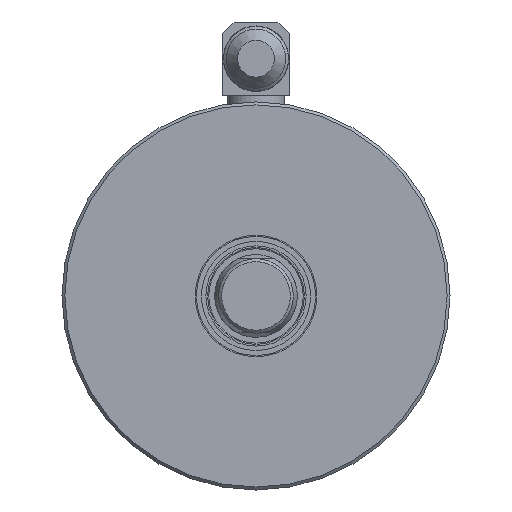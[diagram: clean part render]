
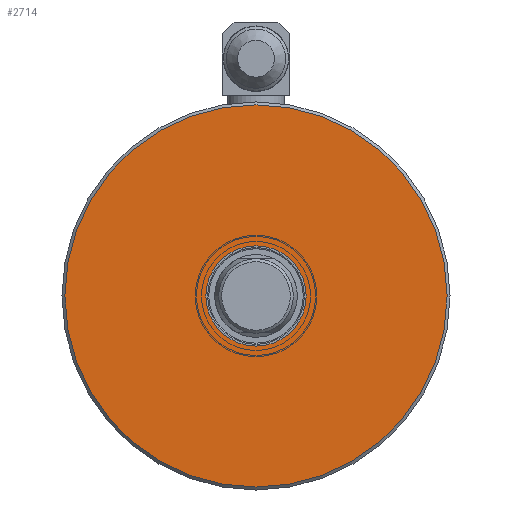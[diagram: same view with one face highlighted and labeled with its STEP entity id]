
A CAD part, left-side view. The second image highlights one B-rep face of the part: STEP entity #2714.
In plain terms, the highlighted planar face has unit normal (-1, 0, 0).
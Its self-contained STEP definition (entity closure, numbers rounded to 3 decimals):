
#125=FACE_BOUND('',#501,.T.);
#182=PLANE('',#2996);
#308=FACE_OUTER_BOUND('',#500,.T.);
#500=EDGE_LOOP('',(#2025));
#501=EDGE_LOOP('',(#2026));
#1006=CIRCLE('',#2997,32.4);
#1007=CIRCLE('',#2998,8.5);
#1199=VERTEX_POINT('',#4458);
#1200=VERTEX_POINT('',#4460);
#1490=EDGE_CURVE('',#1199,#1199,#1006,.T.);
#1491=EDGE_CURVE('',#1200,#1200,#1007,.T.);
#2025=ORIENTED_EDGE('',*,*,#1490,.F.);
#2026=ORIENTED_EDGE('',*,*,#1491,.T.);
#2714=ADVANCED_FACE('',(#308,#125),#182,.F.);
#2996=AXIS2_PLACEMENT_3D('',#4457,#3588,#3589);
#2997=AXIS2_PLACEMENT_3D('',#4459,#3590,#3591);
#2998=AXIS2_PLACEMENT_3D('',#4461,#3592,#3593);
#3588=DIRECTION('center_axis',(1.,0.,0.));
#3589=DIRECTION('ref_axis',(0.,0.,1.));
#3590=DIRECTION('center_axis',(1.,0.,0.));
#3591=DIRECTION('ref_axis',(0.,1.,0.));
#3592=DIRECTION('center_axis',(1.,0.,0.));
#3593=DIRECTION('ref_axis',(0.,0.,-1.));
#4457=CARTESIAN_POINT('Origin',(-215.2,0.,0.));
#4458=CARTESIAN_POINT('',(-215.2,-32.4,0.));
#4459=CARTESIAN_POINT('Origin',(-215.2,0.,0.));
#4460=CARTESIAN_POINT('',(-215.2,0.,8.5));
#4461=CARTESIAN_POINT('Origin',(-215.2,0.,0.));
